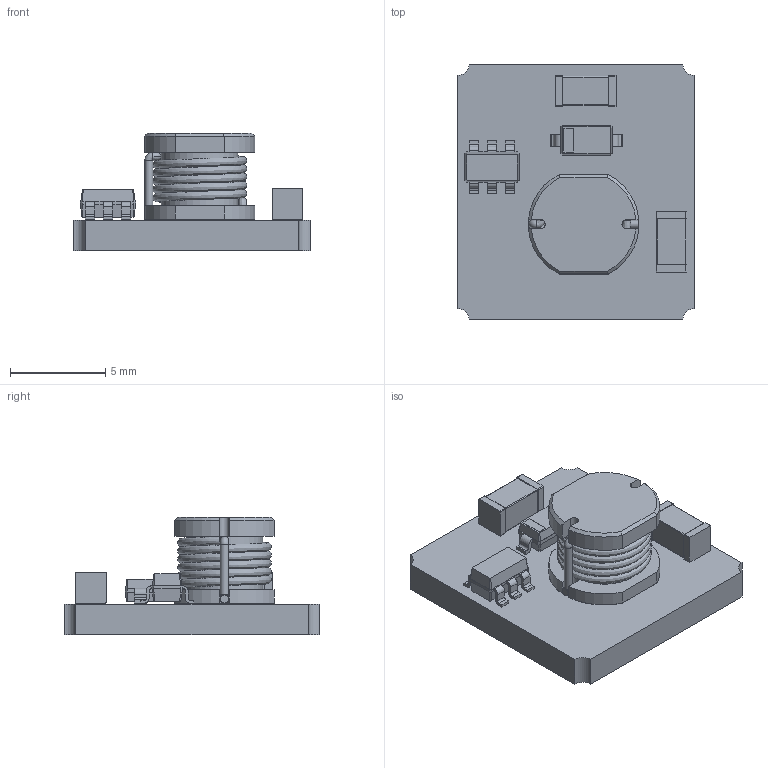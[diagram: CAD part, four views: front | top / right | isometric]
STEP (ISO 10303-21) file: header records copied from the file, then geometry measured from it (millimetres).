
FILE_DESCRIPTION(('KiCad electronic assembly'),'2;1');
FILE_NAME('Pseudo_PCB_DC-DC_Converter_Centre_PCB.step', '2022-02-19T15:39:39',('An Author'),('A Company'), 'Open CASCADE STEP processor 6.9','KiCad to STEP converter','Unknown' );
FILE_SCHEMA(('AUTOMOTIVE_DESIGN { 1 0 10303 214 1 1 1 1 }'));
Length unit declared in the file: millimetre
Products named in the file (23): Open CASCADE STEP translator 6.9 1; SMD_Inductor_CD54; SOLID; COMPOUND; D_SOD-123; SOT-23-6; C_1206_3216Metric
Assembly tree (23 placements, depth 3):
  Open CASCADE STEP translator 6.9 1
    SMD_Inductor_CD54
      SOLID
      SOLID
      SOLID
      SOLID
      SOLID
      SOLID
      SOLID
      SOLID
      SOLID
      SOLID
      SOLID
      SOLID
      SOLID
      COMPOUND
    D_SOD-123
      SOLID
    SOT-23-6
      SOLID
    C_1206_3216Metric  x2
      SOLID
    SOLID
Bounding box: 12.4 x 13.4 x 6.14 mm (x, y, z)
Volume: 379.9 mm3; surface area: 850.3 mm2
Topology: 20 solids, 20 shells, 352 faces, 830 edges, 519 vertices
Faces by surface type: plane 195, cylinder 83, bspline 65, cone 4, revolution 3, torus 2
Full cylindrical faces by diameter (mm): 0.43 x4, 4.02 x1
Entity records: 21983 total; most frequent: CARTESIAN_POINT 4819, DIRECTION 2705, LINE 1700, VECTOR 1700, ORIENTED_EDGE 1508, PCURVE 1508, DEFINITIONAL_REPRESENTATION 1508, EDGE_CURVE 754
